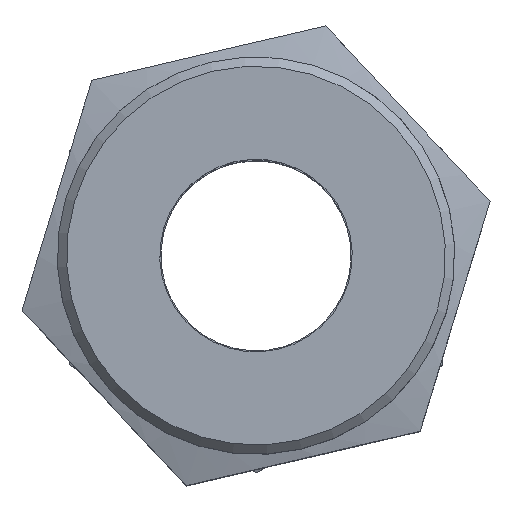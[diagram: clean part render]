
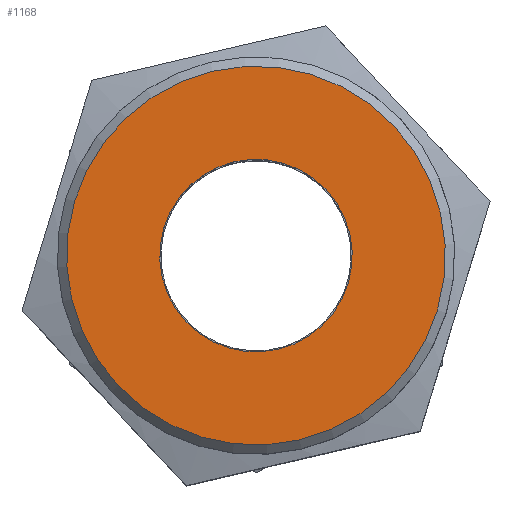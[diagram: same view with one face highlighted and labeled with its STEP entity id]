
A CAD part, top view. The second image highlights one B-rep face of the part: STEP entity #1168.
In plain terms, the highlighted planar face has unit normal (0, 0, 1) as drawn and (0, 1, 0) by its records, which use the part's own axes.
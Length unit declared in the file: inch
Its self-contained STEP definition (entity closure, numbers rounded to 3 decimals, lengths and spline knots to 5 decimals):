
#194=FACE_BOUND('',#413,.T.);
#229=PLANE('',#1301);
#301=FACE_OUTER_BOUND('',#412,.T.);
#412=EDGE_LOOP('',(#1037));
#413=EDGE_LOOP('',(#1038));
#479=CIRCLE('',#1298,0.25375);
#481=CIRCLE('',#1302,0.129);
#621=VERTEX_POINT('',#5593);
#623=VERTEX_POINT('',#5599);
#765=EDGE_CURVE('',#621,#621,#479,.T.);
#767=EDGE_CURVE('',#623,#623,#481,.T.);
#1037=ORIENTED_EDGE('',*,*,#765,.F.);
#1038=ORIENTED_EDGE('',*,*,#767,.T.);
#1168=ADVANCED_FACE('',(#301,#194),#229,.T.);
#1298=AXIS2_PLACEMENT_3D('',#5594,#1568,#1569);
#1301=AXIS2_PLACEMENT_3D('',#5598,#1574,#1575);
#1302=AXIS2_PLACEMENT_3D('',#5600,#1576,#1577);
#1568=DIRECTION('center_axis',(0.,-1.,0.));
#1569=DIRECTION('ref_axis',(-1.,0.,0.));
#1574=DIRECTION('center_axis',(0.,1.,0.));
#1575=DIRECTION('ref_axis',(0.,0.,1.));
#1576=DIRECTION('center_axis',(0.,-1.,0.));
#1577=DIRECTION('ref_axis',(-1.,0.,0.));
#5593=CARTESIAN_POINT('',(0.25375,0.515,0.));
#5594=CARTESIAN_POINT('Origin',(0.,0.515,0.));
#5598=CARTESIAN_POINT('Origin',(0.,0.515,0.));
#5599=CARTESIAN_POINT('',(0.129,0.515,0.));
#5600=CARTESIAN_POINT('Origin',(0.,0.515,0.));
